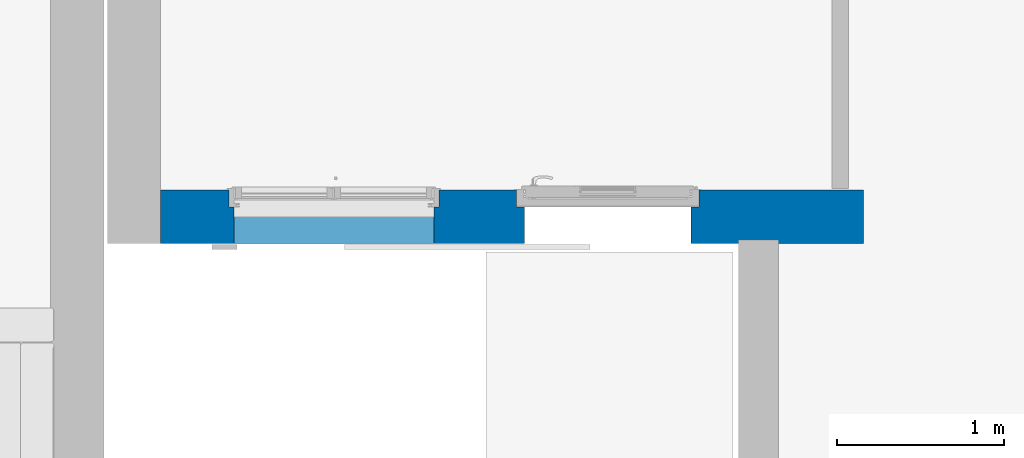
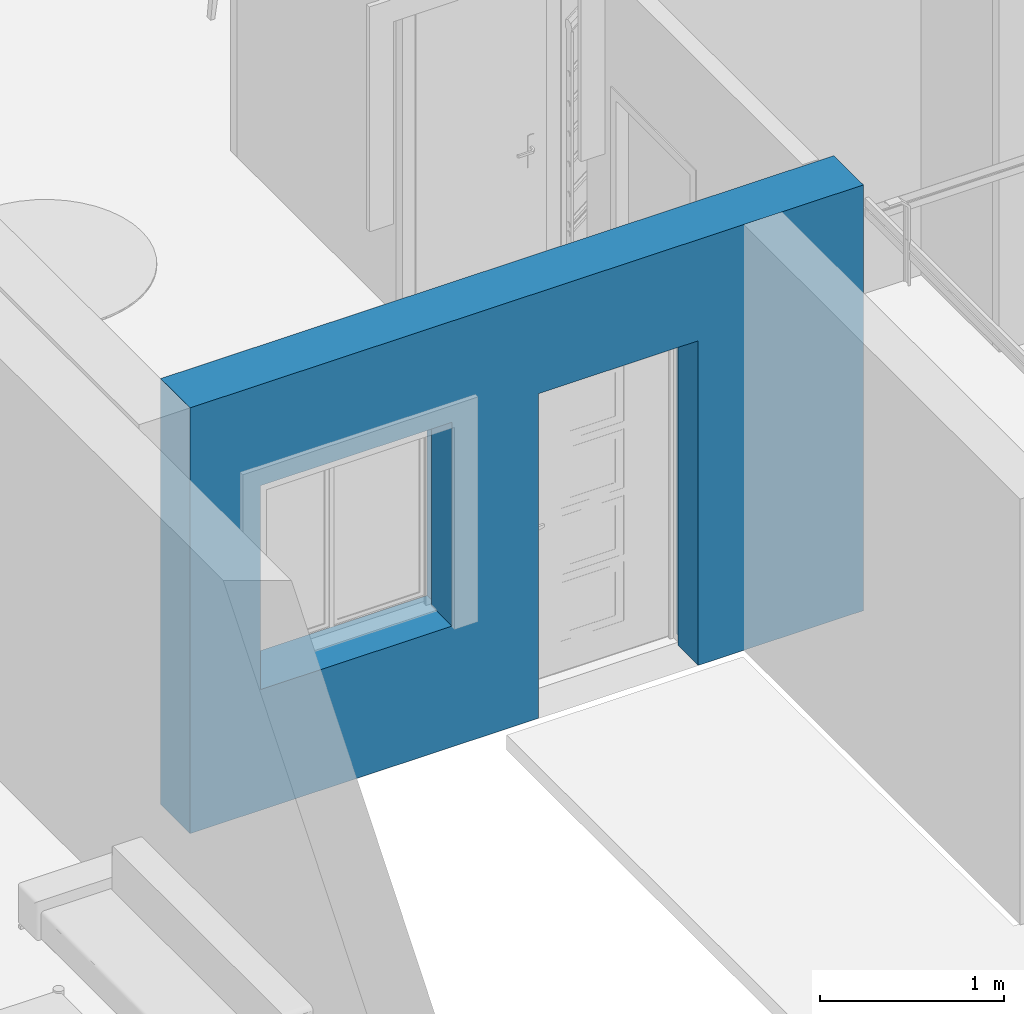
# One storey, part 14 of 30: 1 wall, 2 openings.
"""IFC2X3 building model written with IfcOpenShell, lengths in metres."""

from ifc_helpers import new_model, entity, si_unit, converted_unit, derived_unit, direction, frame, frame_2d, origin, place, context, subcontext, project, spatial, rectangle, extrude, faceted_brep, material, layer, layer_set, layer_usage, type_object, element, save


model = new_model("IFC2X3")

# Units and contexts
model_context = context("Model", 3, precision=1e-05, world=origin(), true_north=direction((6.12303176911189e-17, 1.0)))
body_context = subcontext(model_context, "Body", "Model", "MODEL_VIEW")
ifc_project = project(units=[si_unit("LENGTHUNIT", "METRE"), si_unit("AREAUNIT", "SQUARE_METRE"), si_unit("VOLUMEUNIT", "CUBIC_METRE"), converted_unit("PLANEANGLEUNIT", "DEGREE", entity("IfcRatioMeasure", 0.0174532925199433), si_unit("PLANEANGLEUNIT", "RADIAN"), dimensions=[0, 0, 0, 0, 0, 0, 0]), si_unit("MASSUNIT", "GRAM", prefix="KILO"), derived_unit("MASSDENSITYUNIT", [(si_unit("MASSUNIT", "GRAM", prefix="KILO"), 1), (si_unit("LENGTHUNIT", "METRE"), -3)]), si_unit("TIMEUNIT", "SECOND"), si_unit("FREQUENCYUNIT", "HERTZ"), si_unit("THERMODYNAMICTEMPERATUREUNIT", "DEGREE_CELSIUS"), derived_unit("THERMALTRANSMITTANCEUNIT", [(si_unit("MASSUNIT", "GRAM", prefix="KILO"), 1), (si_unit("THERMODYNAMICTEMPERATUREUNIT", "KELVIN"), -1), (si_unit("TIMEUNIT", "SECOND"), -3)]), derived_unit("VOLUMETRICFLOWRATEUNIT", [(si_unit("LENGTHUNIT", "METRE"), 3), (si_unit("TIMEUNIT", "SECOND"), -1)]), si_unit("ELECTRICCURRENTUNIT", "AMPERE"), si_unit("ELECTRICVOLTAGEUNIT", "VOLT"), si_unit("POWERUNIT", "WATT"), si_unit("FORCEUNIT", "NEWTON", prefix="KILO"), si_unit("ILLUMINANCEUNIT", "LUX"), si_unit("LUMINOUSFLUXUNIT", "LUMEN"), si_unit("LUMINOUSINTENSITYUNIT", "CANDELA"), derived_unit("USERDEFINED", [(si_unit("MASSUNIT", "GRAM", prefix="KILO"), -1), (si_unit("LENGTHUNIT", "METRE"), -2), (si_unit("TIMEUNIT", "SECOND"), 3), (si_unit("LUMINOUSFLUXUNIT", "LUMEN"), 1)]), derived_unit("LINEARVELOCITYUNIT", [(si_unit("LENGTHUNIT", "METRE"), 1), (si_unit("TIMEUNIT", "SECOND"), -1)]), si_unit("PRESSUREUNIT", "PASCAL"), derived_unit("USERDEFINED", [(si_unit("LENGTHUNIT", "METRE"), -2), (si_unit("MASSUNIT", "GRAM", prefix="KILO"), 1), (si_unit("TIMEUNIT", "SECOND"), -2)])], contexts=[model_context])

# Site, building, storey
site_placement = place(None, origin())
site = spatial("IfcSite", under=ifc_project, at=site_placement, Name="Surface", CompositionType="ELEMENT")
building_placement = place(site_placement, origin())
building = spatial("IfcBuilding", under=site, at=building_placement, CompositionType="ELEMENT")
storey_placement = place(building_placement, origin())
storey = spatial("IfcBuildingStorey", under=building, at=storey_placement, Name="Plan des fondations  Maisons 1 et 2", CompositionType="ELEMENT", Elevation=0.0)

# Wall, openings
ifc_material_1 = material(Name="Enduit blanc cassé2")
ifc_layer_1 = layer(ifc_material_1, 0.02)
ifc_material_2 = material(Name="Parpaing")
ifc_layer_2 = layer(ifc_material_2, 0.2)
ifc_material_3 = material(Name="Isolant")
ifc_layer_3 = layer(ifc_material_3, 0.1)
ifc_layer_set = layer_set([ifc_layer_1, ifc_layer_2, ifc_layer_3], Name="Mur de base:Ext. Parpaing 20 + Isolant 10 enduit blanc cassé")
ifc_layer_usage = layer_usage(ifc_layer_set, "AXIS2", "POSITIVE", -0.16)
wall_type = type_object("IfcWallType", Name="Mur de base:Ext. Parpaing 20 + Isolant 10 enduit blanc cassé", PredefinedType="STANDARD", material=ifc_layer_set)
wall_placement = place(storey_placement, frame((76.622756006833, 84.0875239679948, 0.0)))
wall = element("IfcWallStandardCase", 1, at=wall_placement, inside=storey, type_object=wall_type, material=ifc_layer_usage, Name="Mur de base:Ext. Parpaing 20 + Isolant 10 enduit blanc cassé", ObjectType="Mur de base:Ext. Parpaing 20 + Isolant 10 enduit blanc cassé", context=body_context, shape_type="SweptSolid", body=[
    extrude(rectangle(XDim=4.21826294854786, YDim=0.319999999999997, at=frame_2d((2.10913147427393, -5.55111512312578e-16), x_axis=(-1.0, 0.0))), origin(), (0.0, 0.0, 1.0), 2.82),
])
opening_1_placement = place(wall_placement, frame((2.13576230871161, -0.160000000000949, 0.0)))
element("IfcOpeningElement", 2, at=opening_1_placement, cuts=wall, Name="Mur de base:Ext. Parpaing 20 + Isolant 10 enduit blanc cassé", ObjectType="Opening", context=body_context, shape_type="Brep", body=[
    faceted_brep([(1.09500127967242, 0.320000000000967, 0.0), (0.0, 0.320000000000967, 0.0), (0.0, 0.320000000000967, 2.19749999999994), (1.09500127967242, 0.320000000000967, 2.19749999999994), (1.04750063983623, 0.0, 2.15), (0.0475006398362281, 0.0, 2.15), (0.0475006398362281, 0.0, 0.0), (1.04750063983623, 0.0, 0.0), (1.04750063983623, 0.220000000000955, 2.15), (0.0475006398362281, 0.220000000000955, 2.15), (0.0475006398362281, 0.220000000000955, 0.0), (0.0, 0.220000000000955, 0.0), (1.09500127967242, 0.220000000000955, 0.0), (1.04750063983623, 0.220000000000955, 0.0), (0.0, 0.220000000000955, 2.19749999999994), (1.0950012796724, 0.220000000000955, 2.19749999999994)], [[[0, 1, 2, 3]], [[4, 5, 6, 7]], [[5, 4, 8, 9]], [[6, 5, 9, 10]], [[7, 6, 10, 11, 1, 0, 12, 13]], [[4, 7, 13, 8]], [[3, 2, 14, 15]], [[15, 14, 11, 10, 9, 8, 13, 12]], [[11, 14, 2, 1]], [[0, 3, 15, 12]]]),
])
opening_2_placement = place(wall_placement, frame((0.399999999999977, -0.46000000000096, 0.799999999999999)))
element("IfcOpeningElement", 3, at=opening_2_placement, cuts=wall, Name="Mur de base:Ext. Parpaing 20 + Isolant 10 enduit blanc cassé", ObjectType="Opening", context=body_context, shape_type="Brep", body=[
    faceted_brep([(0.0399999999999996, 0.0, 1.35), (1.24, 0.0, 1.35), (1.24, 0.520000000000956, 1.35), (0.0399999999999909, 0.520000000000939, 1.35), (1.24, 0.0, 0.0), (0.0399999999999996, 0.0, 0.0), (0.0399999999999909, 0.520000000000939, 0.0), (0.00999999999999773, 0.520000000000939, 0.0), (0.00999999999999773, 0.620000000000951, 0.0), (0.0399999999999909, 0.620000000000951, 0.0), (0.0399999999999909, 0.720000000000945, 0.0), (1.24, 0.720000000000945, 0.0), (1.24, 0.620000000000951, 0.0), (1.26999999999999, 0.620000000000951, 0.0), (1.26999999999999, 0.520000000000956, 0.0), (1.24, 0.520000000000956, 0.0), (0.0399999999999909, 0.720000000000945, 1.35), (1.24, 0.720000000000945, 1.35), (0.00999999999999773, 0.620000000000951, 1.38), (0.0, 0.620000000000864, 1.38000000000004), (0.0, 0.620000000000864, 1.59000000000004), (1.28000000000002, 0.620000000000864, 1.59000000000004), (1.28000000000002, 0.620000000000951, 1.38000000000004), (1.27000000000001, 0.620000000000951, 1.38), (1.24, 0.620000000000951, 1.35), (0.0399999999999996, 0.620000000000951, 1.35), (0.0100000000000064, 0.520000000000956, 1.38000000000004), (1.27000000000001, 0.520000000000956, 1.38000000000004), (1.28000000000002, 0.520000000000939, 1.38000000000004), (1.28000000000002, 0.520000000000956, 1.59000000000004), (0.0, 0.520000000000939, 1.59000000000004), (0.0, 0.520000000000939, 1.38000000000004)], [[[0, 1, 2, 3]], [[4, 5, 6, 7, 8, 9, 10, 11, 12, 13, 14, 15]], [[1, 0, 5, 4]], [[5, 0, 3, 6]], [[16, 17, 11, 10]], [[1, 4, 15, 2]], [[9, 8, 18, 19, 20, 21, 22, 23, 13, 12, 24, 25]], [[8, 7, 26, 18]], [[7, 6, 3, 2, 15, 14, 27, 28, 29, 30, 31, 26]], [[13, 23, 27, 14]], [[31, 30, 20, 19]], [[28, 22, 21, 29]], [[31, 19, 18, 26]], [[20, 30, 29, 21]], [[22, 28, 27, 23]], [[11, 17, 24, 12]], [[16, 10, 9, 25]], [[17, 16, 25, 24]]]),
])

save(model, "model.ifc")
